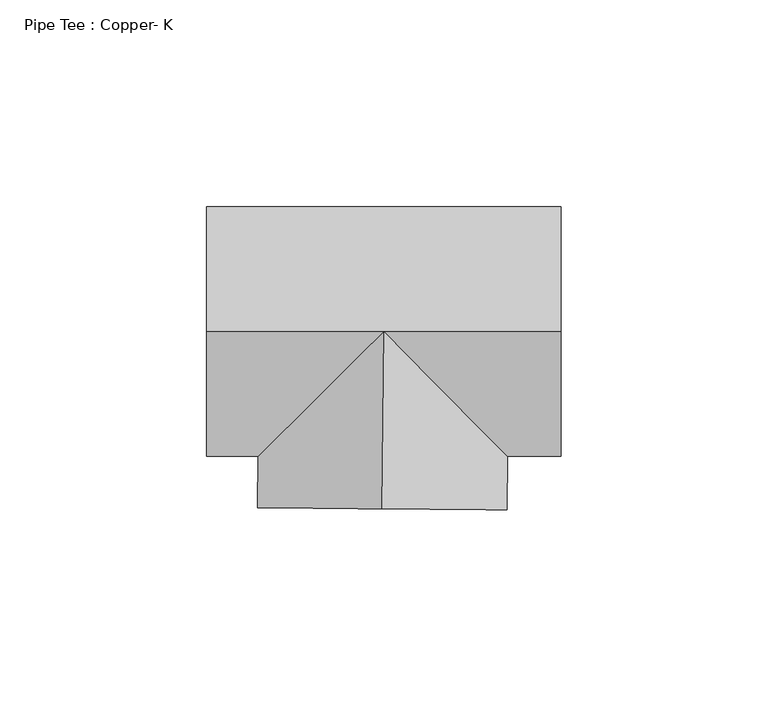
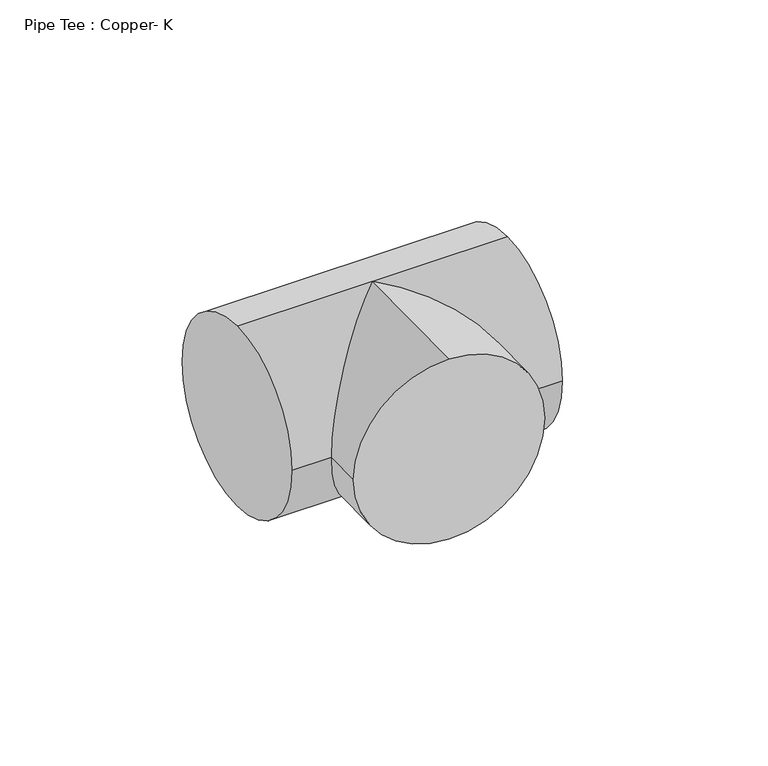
"""IFC4 building model written with IfcOpenShell, lengths in millimetres: pipe fitting geometry, Pipe Tee : Copper- K."""

from ifc_helpers import new_model, si_unit, frame, origin, place, context, project, spatial, circle_curve, ellipse_curve, source, transform, mapped, element, save
from ifc_brep_helpers import plane_surface, cylinder_surface, advanced_brep


def pipe_tee_copper_k_86eab680(model_context):
    return source(origin(), model_context, "Body", "AdvancedBrep", [
        advanced_brep(
        [(-42.8625, 0.0, 30.1625), (-42.8625, 30.1625, 0.0), (-42.8625, 0.0, -30.1625), (-42.8625, -30.1625, 0.0), (42.8625, 0.0, 30.1625), (42.8625, -30.1625, 0.0), (42.8625, 0.0, -30.1625), (42.8625, 30.1625, 0.0), (0.0, 0.0, 30.1625), (0.0, 0.0, -30.1625), (-30.4241681, -30.1625, 0.0), (29.9030825, -30.1625, 0.0), (-0.3702312, -42.860901, 30.1625), (-30.531606, -42.6003679, 0.0), (-0.3702312, -42.860901, -30.1625), (29.7911436, -43.1214341, 0.0)],
        [
            (0, 1, circle_curve(frame((-42.8625, 0.0, 0.0), z_axis=(-1.0, 0.0, 0.0), x_axis=(0.0, 1.0, 0.0)), 30.1625)),
            (1, 2, circle_curve(frame((-42.8625, 0.0, 0.0), z_axis=(-1.0, 0.0, 0.0), x_axis=(0.0, 1.0, 0.0)), 30.1625)),
            (2, 3, circle_curve(frame((-42.8625, 0.0, 0.0), z_axis=(-1.0, 0.0, 0.0), x_axis=(0.0, 1.0, 0.0)), 30.1625)),
            (3, 0, circle_curve(frame((-42.8625, 0.0, 0.0), z_axis=(-1.0, 0.0, 0.0), x_axis=(0.0, 1.0, 0.0)), 30.1625)),
            (4, 5, circle_curve(frame((42.8625, 0.0, 0.0), z_axis=(1.0, 0.0, 0.0), x_axis=(0.0, 1.0, 0.0)), 30.1625)),
            (5, 6, circle_curve(frame((42.8625, 0.0, 0.0), z_axis=(1.0, 0.0, 0.0), x_axis=(0.0, 1.0, 0.0)), 30.1625)),
            (6, 7, circle_curve(frame((42.8625, 0.0, 0.0), z_axis=(1.0, 0.0, 0.0), x_axis=(0.0, 1.0, 0.0)), 30.1625)),
            (7, 4, circle_curve(frame((42.8625, 0.0, 0.0), z_axis=(1.0, 0.0, 0.0), x_axis=(0.0, 1.0, 0.0)), 30.1625)),
            (0, 8),
            (8, 4),
            (7, 1),
            (6, 9),
            (9, 2),
            (9, 10, ellipse_curve(frame((0.0, 0.0, 0.0), z_axis=(-0.7040462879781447, 0.7101540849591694, 0.0), x_axis=(-0.7101540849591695, -0.7040462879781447, 0.0)), 42.8416434, 30.1625)),
            (10, 3),
            (5, 11),
            (11, 9, ellipse_curve(frame((0.0, 0.0, 0.0), z_axis=(0.7101540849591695, 0.7040462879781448, 0.0), x_axis=(-0.7040462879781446, 0.7101540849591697, 0.0)), 42.4731768, 30.1625)),
            (10, 8, ellipse_curve(frame((0.0, 0.0, 0.0), z_axis=(-0.7040462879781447, 0.7101540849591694, 0.0), x_axis=(-0.7101540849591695, -0.7040462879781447, 0.0)), 42.8416434, 30.1625)),
            (8, 11, ellipse_curve(frame((0.0, 0.0, 0.0), z_axis=(0.7101540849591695, 0.7040462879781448, 0.0), x_axis=(-0.7040462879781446, 0.7101540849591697, 0.0)), 42.4731768, 30.1625)),
            (12, 13, circle_curve(frame((-0.3702312, -42.860901, 0.0), z_axis=(-0.008637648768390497, -0.9999626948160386, 0.0), x_axis=(0.9999626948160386, -0.008637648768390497, 0.0)), 30.1625)),
            (13, 14, circle_curve(frame((-0.3702312, -42.860901, 0.0), z_axis=(-0.008637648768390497, -0.9999626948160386, 0.0), x_axis=(0.9999626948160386, -0.008637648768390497, 0.0)), 30.1625)),
            (14, 15, circle_curve(frame((-0.3702312, -42.860901, 0.0), z_axis=(-0.008637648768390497, -0.9999626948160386, 0.0), x_axis=(0.9999626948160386, -0.008637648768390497, 0.0)), 30.1625)),
            (15, 12, circle_curve(frame((-0.3702312, -42.860901, 0.0), z_axis=(-0.008637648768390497, -0.9999626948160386, 0.0), x_axis=(0.9999626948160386, -0.008637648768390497, 0.0)), 30.1625)),
            (15, 11),
            (8, 12),
            (14, 9),
            (13, 10),
        ],
        [
            plane_surface(frame((-42.8625, 0.0, 0.0), z_axis=(-1.0, 0.0, 0.0), x_axis=(0.0, 0.0, 1.0))),
            plane_surface(frame((42.8625, 0.0, 0.0), z_axis=(1.0, 0.0, 0.0), x_axis=(0.0, 0.0, 1.0))),
            cylinder_surface(frame((-42.8625, 0.0, 0.0), z_axis=(-1.0, 0.0, 0.0), x_axis=(0.0, 1.0, 0.0)), 30.1625),
            plane_surface(frame((-0.3702312, -42.860901, 0.0), z_axis=(-0.008637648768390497, -0.9999626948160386, 0.0), x_axis=(0.0, 0.0, 1.0))),
            cylinder_surface(frame((0.0, 0.0, 0.0), z_axis=(0.008637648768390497, 0.9999626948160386, 0.0), x_axis=(0.9999626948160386, -0.008637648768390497, 0.0)), 30.1625),
        ],
        [
            (0, [[1, 2, 3, 4]]),
            (1, [[5, 6, 7, 8]]),
            (2, [[-1, 9, 10, -8, 11]]),
            (2, [[-2, -11, -7, 12, 13]]),
            (2, [[-3, -13, 14, 15]]),
            (2, [[-6, 16, 17, -12]]),
            (2, [[-4, -15, 18, -9]]),
            (2, [[-5, -10, 19, -16]]),
            (3, [[20, 21, 22, 23]]),
            (4, [[-23, 24, -19, 25]]),
            (4, [[-22, 26, -17, -24]]),
            (4, [[-21, 27, -14, -26]]),
            (4, [[-20, -25, -18, -27]]),
        ],
    ),
        advanced_brep(
        [(-42.8625, 0.0, 30.1625), (-42.8625, 30.1625, 0.0), (-42.8625, 0.0, -30.1625), (-42.8625, -30.1625, 0.0), (42.8625, 0.0, 30.1625), (42.8625, -30.1625, 0.0), (42.8625, 0.0, -30.1625), (42.8625, 30.1625, 0.0), (0.0, 0.0, 30.1625), (0.0, 0.0, -30.1625), (-30.4241681, -30.1625, 0.0), (29.9030825, -30.1625, 0.0), (-0.3702312, -42.860901, 30.1625), (-30.531606, -42.6003679, 0.0), (-0.3702312, -42.860901, -30.1625), (29.7911436, -43.1214341, 0.0)],
        [
            (0, 1, circle_curve(frame((-42.8625, 0.0, 0.0), z_axis=(-1.0, 0.0, 0.0), x_axis=(0.0, 1.0, 0.0)), 30.1625)),
            (1, 2, circle_curve(frame((-42.8625, 0.0, 0.0), z_axis=(-1.0, 0.0, 0.0), x_axis=(0.0, 1.0, 0.0)), 30.1625)),
            (2, 3, circle_curve(frame((-42.8625, 0.0, 0.0), z_axis=(-1.0, 0.0, 0.0), x_axis=(0.0, 1.0, 0.0)), 30.1625)),
            (3, 0, circle_curve(frame((-42.8625, 0.0, 0.0), z_axis=(-1.0, 0.0, 0.0), x_axis=(0.0, 1.0, 0.0)), 30.1625)),
            (4, 5, circle_curve(frame((42.8625, 0.0, 0.0), z_axis=(1.0, 0.0, 0.0), x_axis=(0.0, 1.0, 0.0)), 30.1625)),
            (5, 6, circle_curve(frame((42.8625, 0.0, 0.0), z_axis=(1.0, 0.0, 0.0), x_axis=(0.0, 1.0, 0.0)), 30.1625)),
            (6, 7, circle_curve(frame((42.8625, 0.0, 0.0), z_axis=(1.0, 0.0, 0.0), x_axis=(0.0, 1.0, 0.0)), 30.1625)),
            (7, 4, circle_curve(frame((42.8625, 0.0, 0.0), z_axis=(1.0, 0.0, 0.0), x_axis=(0.0, 1.0, 0.0)), 30.1625)),
            (0, 8),
            (8, 4),
            (7, 1),
            (6, 9),
            (9, 2),
            (9, 10, ellipse_curve(frame((0.0, 0.0, 0.0), z_axis=(-0.7040462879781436, 0.7101540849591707, 0.0), x_axis=(-0.7101540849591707, -0.7040462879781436, 0.0)), 42.8416434, 30.1625)),
            (10, 3),
            (5, 11),
            (11, 9, ellipse_curve(frame((0.0, 0.0, 0.0), z_axis=(0.7101540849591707, 0.7040462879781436, 0.0), x_axis=(-0.7040462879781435, 0.7101540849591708, 0.0)), 42.4731768, 30.1625)),
            (10, 8, ellipse_curve(frame((0.0, 0.0, 0.0), z_axis=(-0.7040462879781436, 0.7101540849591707, 0.0), x_axis=(-0.7101540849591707, -0.7040462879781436, 0.0)), 42.8416434, 30.1625)),
            (8, 11, ellipse_curve(frame((0.0, 0.0, 0.0), z_axis=(0.7101540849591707, 0.7040462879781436, 0.0), x_axis=(-0.7040462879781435, 0.7101540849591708, 0.0)), 42.4731768, 30.1625)),
            (12, 13, circle_curve(frame((-0.3702312, -42.860901, 0.0), z_axis=(-0.008637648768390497, -0.9999626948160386, 0.0), x_axis=(0.9999626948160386, -0.008637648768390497, 0.0)), 30.1625)),
            (13, 14, circle_curve(frame((-0.3702312, -42.860901, 0.0), z_axis=(-0.008637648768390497, -0.9999626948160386, 0.0), x_axis=(0.9999626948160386, -0.008637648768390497, 0.0)), 30.1625)),
            (14, 15, circle_curve(frame((-0.3702312, -42.860901, 0.0), z_axis=(-0.008637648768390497, -0.9999626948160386, 0.0), x_axis=(0.9999626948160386, -0.008637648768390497, 0.0)), 30.1625)),
            (15, 12, circle_curve(frame((-0.3702312, -42.860901, 0.0), z_axis=(-0.008637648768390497, -0.9999626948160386, 0.0), x_axis=(0.9999626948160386, -0.008637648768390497, 0.0)), 30.1625)),
            (15, 11),
            (8, 12),
            (14, 9),
            (13, 10),
        ],
        [
            plane_surface(frame((-42.8625, 0.0, 0.0), z_axis=(-1.0, 0.0, 0.0), x_axis=(0.0, 0.0, 1.0))),
            plane_surface(frame((42.8625, 0.0, 0.0), z_axis=(1.0, 0.0, 0.0), x_axis=(0.0, 0.0, 1.0))),
            cylinder_surface(frame((-42.8625, 0.0, 0.0), z_axis=(-1.0, 0.0, 0.0), x_axis=(0.0, 1.0, 0.0)), 30.1625),
            plane_surface(frame((-0.3702312, -42.860901, 0.0), z_axis=(-0.008637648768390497, -0.9999626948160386, 0.0), x_axis=(0.0, 0.0, 1.0))),
            cylinder_surface(frame((0.0, 0.0, 0.0), z_axis=(0.008637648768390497, 0.9999626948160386, 0.0), x_axis=(0.9999626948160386, -0.008637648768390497, 0.0)), 30.1625),
        ],
        [
            (0, [[1, 2, 3, 4]]),
            (1, [[5, 6, 7, 8]]),
            (2, [[-1, 9, 10, -8, 11]]),
            (2, [[-2, -11, -7, 12, 13]]),
            (2, [[-3, -13, 14, 15]]),
            (2, [[-6, 16, 17, -12]]),
            (2, [[-4, -15, 18, -9]]),
            (2, [[-5, -10, 19, -16]]),
            (3, [[20, 21, 22, 23]]),
            (4, [[-23, 24, -19, 25]]),
            (4, [[-22, 26, -17, -24]]),
            (4, [[-21, 27, -14, -26]]),
            (4, [[-20, -25, -18, -27]]),
        ],
    ),
    ])


if __name__ == "__main__":
    model = new_model("IFC4")
    model_context = context("Model", 3, world=origin())
    ifc_project = project(units=[si_unit("LENGTHUNIT", "METRE", prefix="MILLI")], contexts=[model_context])
    site = spatial("IfcSite", under=ifc_project)
    building = spatial("IfcBuilding", under=site)
    placement = place(None, origin())
    pipe_tee_copper_k_shape = pipe_tee_copper_k_86eab680(model_context)
    element("IfcPipeFitting", 1, ObjectType="Pipe Tee : Copper- K", at=placement, inside=building, context=model_context, shape_type="MappedRepresentation", body=[
        mapped(pipe_tee_copper_k_shape, transform((0.0, 0.0, 0.0), x_axis=(1.0, 0.0, 0.0), y_axis=(0.0, 1.0, 0.0), z_axis=(0.0, 0.0, 1.0))),
    ])
    save(model, "model.ifc")
